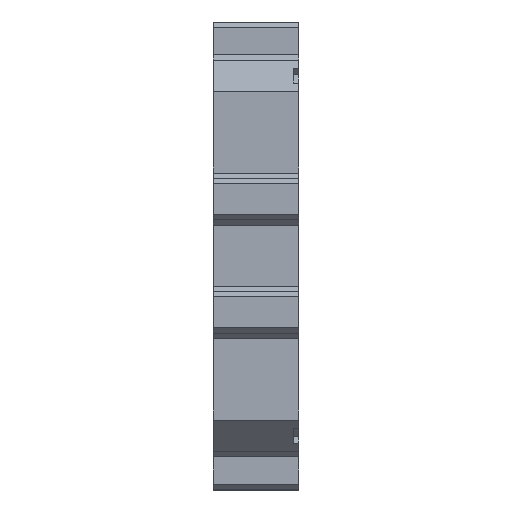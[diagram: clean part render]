
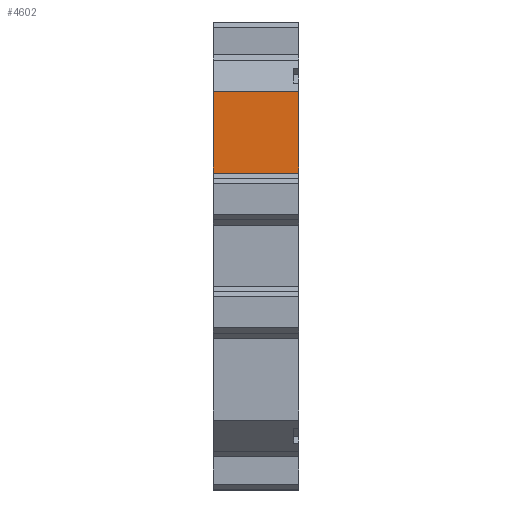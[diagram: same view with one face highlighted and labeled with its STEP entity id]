
A CAD part, top view. The second image highlights one B-rep face of the part: STEP entity #4602.
In plain terms, the highlighted planar face has unit normal (0, 0, 1).
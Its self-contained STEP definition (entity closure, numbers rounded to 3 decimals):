
#283=FACE_OUTER_BOUND('',#524,.T.);
#524=EDGE_LOOP('',(#2895,#2896,#2897,#2898));
#802=LINE('',#6248,#1303);
#807=LINE('',#6258,#1308);
#808=LINE('',#6260,#1309);
#809=LINE('',#6261,#1310);
#1303=VECTOR('',#5162,10.);
#1308=VECTOR('',#5169,10.);
#1309=VECTOR('',#5170,10.);
#1310=VECTOR('',#5171,10.);
#1804=VERTEX_POINT('',#6245);
#1805=VERTEX_POINT('',#6247);
#1809=VERTEX_POINT('',#6257);
#1810=VERTEX_POINT('',#6259);
#2235=EDGE_CURVE('',#1804,#1805,#802,.T.);
#2240=EDGE_CURVE('',#1809,#1804,#807,.T.);
#2241=EDGE_CURVE('',#1810,#1809,#808,.T.);
#2242=EDGE_CURVE('',#1810,#1805,#809,.T.);
#2895=ORIENTED_EDGE('',*,*,#2235,.F.);
#2896=ORIENTED_EDGE('',*,*,#2240,.F.);
#2897=ORIENTED_EDGE('',*,*,#2241,.F.);
#2898=ORIENTED_EDGE('',*,*,#2242,.T.);
#4198=PLANE('',#4866);
#4602=ADVANCED_FACE('',(#283),#4198,.T.);
#4866=AXIS2_PLACEMENT_3D('',#6256,#5167,#5168);
#5162=DIRECTION('',(1.,0.,0.));
#5167=DIRECTION('center_axis',(0.,0.,1.));
#5168=DIRECTION('ref_axis',(0.,-1.,0.));
#5169=DIRECTION('',(0.,1.,0.));
#5170=DIRECTION('',(-1.,0.,0.));
#5171=DIRECTION('',(0.,1.,0.));
#6245=CARTESIAN_POINT('',(-16.414,31.5,56.9));
#6247=CARTESIAN_POINT('',(0.,31.5,56.9));
#6248=CARTESIAN_POINT('',(0.,31.5,56.9));
#6256=CARTESIAN_POINT('Origin',(0.,37.5,56.9));
#6257=CARTESIAN_POINT('',(-16.414,15.839,56.9));
#6258=CARTESIAN_POINT('',(-16.414,37.5,56.9));
#6259=CARTESIAN_POINT('',(0.,15.839,56.9));
#6260=CARTESIAN_POINT('',(0.,15.839,56.9));
#6261=CARTESIAN_POINT('',(0.,18.75,56.9));
